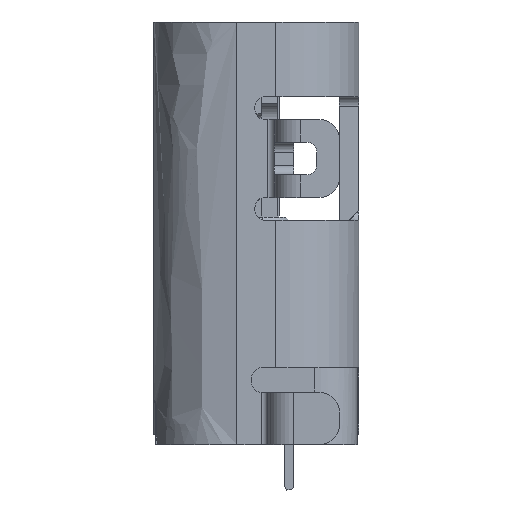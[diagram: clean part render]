
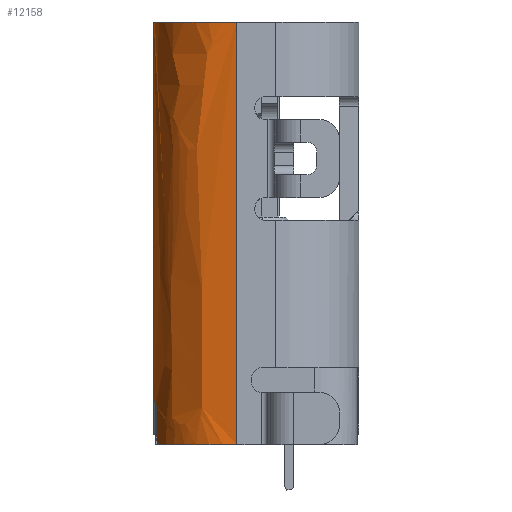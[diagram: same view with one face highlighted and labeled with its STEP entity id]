
A CAD part, left-side view. The second image highlights one B-rep face of the part: STEP entity #12158.
In plain terms, the highlighted free-form (B-spline) face has degree [1, 3] with [2, 4] control points.
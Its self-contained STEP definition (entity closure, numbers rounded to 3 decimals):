
#673 = CIRCLE ( 'NONE', #29351, 1.28 ) ;
#1560 = EDGE_CURVE ( 'NONE', #30214, #9611, #22685, .T. ) ;
#1673 = VERTEX_POINT ( 'NONE', #27566 ) ;
#1691 = CARTESIAN_POINT ( 'NONE',  ( -5.27, 0.221, 10.633 ) ) ;
#2208 = CARTESIAN_POINT ( 'NONE',  ( -4.441, 1.419, 4.134 ) ) ;
#2558 = CARTESIAN_POINT ( 'NONE',  ( -4.327, 1.456, 4.236 ) ) ;
#3427 = VERTEX_POINT ( 'NONE', #18721 ) ;
#3553 = VERTEX_POINT ( 'NONE', #19065 ) ;
#3572 = CARTESIAN_POINT ( 'NONE',  ( -4.32, 1.458, 4.668 ) ) ;
#5095 = VECTOR ( 'NONE', #16640, 1000. ) ;
#5695 = CARTESIAN_POINT ( 'NONE',  ( -3.99, 1.501, 10.633 ) ) ;
#6548 = EDGE_LOOP ( 'NONE', ( #31953, #19646, #23056, #30115, #26745, #11651, #20205, #29499 ) ) ;
#7259 = CARTESIAN_POINT ( 'NONE',  ( -5.27, 0.971, 4.133 ) ) ;
#7664 = CARTESIAN_POINT ( 'NONE',  ( -5.27, 0.221, 4.133 ) ) ;
#7786 = EDGE_CURVE ( 'NONE', #30683, #3553, #7965, .T. ) ;
#7952 = CARTESIAN_POINT ( 'NONE',  ( -4.32, 1.458, 4.275 ) ) ;
#7965 = B_SPLINE_CURVE_WITH_KNOTS ( 'NONE', 3,
 ( #15507, #7952, #12806, #2558, #26455, #10285, #35065, #15679, #23588, #32569, #2208, #29165, #29331 ),
 .UNSPECIFIED., .F., .F.,
 ( 4, 1, 1, 1, 1, 1, 1, 1, 1, 1, 4 ),
 ( 0., 0.1, 0.2, 0.3, 0.4, 0.5, 0.6, 0.7, 0.8, 0.9, 1. ),
 .UNSPECIFIED. ) ;
#8393 = LINE ( 'NONE', #5695, #5095 ) ;
#8584 = CIRCLE ( 'NONE', #28672, 1.28 ) ;
#8685 = EDGE_CURVE ( 'NONE', #3427, #1673, #8393, .T. ) ;
#9402 = CARTESIAN_POINT ( 'NONE',  ( -4.74, 1.501, 10.632 ) ) ;
#9611 = VERTEX_POINT ( 'NONE', #27065 ) ;
#9657 = VERTEX_POINT ( 'NONE', #7664 ) ;
#10041 = EDGE_CURVE ( 'NONE', #9611, #30683, #11029, .T. ) ;
#10285 = CARTESIAN_POINT ( 'NONE',  ( -4.348, 1.451, 4.194 ) ) ;
#10369 = DIRECTION ( 'NONE',  ( 0., 0., 1. ) ) ;
#10462 = EDGE_CURVE ( 'NONE', #3553, #9657, #8584, .T. ) ;
#11011 = DIRECTION ( 'NONE',  ( -1., 0., 0. ) ) ;
#11029 = LINE ( 'NONE', #14268, #17749 ) ;
#11626 = EDGE_CURVE ( 'NONE', #1673, #30214, #15758, .T. ) ;
#11651 = ORIENTED_EDGE ( 'NONE', *, *, #8685, .T. ) ;
#11937 = FACE_OUTER_BOUND ( 'NONE', #6548, .T. ) ;
#12158 = ADVANCED_FACE ( 'NONE', ( #11937 ), #25162, .F. ) ;
#12482 = LINE ( 'NONE', #29004, #15537 ) ;
#12806 = CARTESIAN_POINT ( 'NONE',  ( -4.321, 1.458, 4.259 ) ) ;
#13012 = DIRECTION ( 'NONE',  ( 0., 0., -1. ) ) ;
#14268 = CARTESIAN_POINT ( 'NONE',  ( -4.32, 1.458, 4.653 ) ) ;
#14532 = CARTESIAN_POINT ( 'NONE',  ( -4.32, 1.458, 4.653 ) ) ;
#15507 = CARTESIAN_POINT ( 'NONE',  ( -4.32, 1.458, 4.282 ) ) ;
#15537 = VECTOR ( 'NONE', #13012, 1000. ) ;
#15679 = CARTESIAN_POINT ( 'NONE',  ( -4.38, 1.441, 4.161 ) ) ;
#15758 = CIRCLE ( 'NONE', #16900, 1.28 ) ;
#16427 = CARTESIAN_POINT ( 'NONE',  ( -4.32, 1.458, 4.282 ) ) ;
#16640 = DIRECTION ( 'NONE',  ( 0., 0., -1. ) ) ;
#16900 = AXIS2_PLACEMENT_3D ( 'NONE', #23549, #29657, #17981 ) ;
#17230 = CARTESIAN_POINT ( 'NONE',  ( -4.17, 1.489, 4.802 ) ) ;
#17498 = CARTESIAN_POINT ( 'NONE',  ( -4.74, 1.501, 4.133 ) ) ;
#17749 = VECTOR ( 'NONE', #33298, 1000. ) ;
#17981 = DIRECTION ( 'NONE',  ( 0., 1., 0. ) ) ;
#18721 = CARTESIAN_POINT ( 'NONE',  ( -3.99, 1.501, 10.633 ) ) ;
#19065 = CARTESIAN_POINT ( 'NONE',  ( -4.463, 1.411, 4.133 ) ) ;
#19646 = ORIENTED_EDGE ( 'NONE', *, *, #7786, .T. ) ;
#20205 = ORIENTED_EDGE ( 'NONE', *, *, #11626, .T. ) ;
#20798 = CARTESIAN_POINT ( 'NONE',  ( -4.17, 1.489, 4.802 ) ) ;
#20909 = CARTESIAN_POINT ( 'NONE',  ( -3.99, 1.501, 4.133 ) ) ;
#21972 = DIRECTION ( 'NONE',  ( 0., 0., -1. ) ) ;
#22443 = CARTESIAN_POINT ( 'NONE',  ( -4.186, 1.486, 4.802 ) ) ;
#22685 = B_SPLINE_CURVE_WITH_KNOTS ( 'NONE', 3,
 ( #17230, #22443, #25306, #22808, #33761, #33225, #3572, #14532 ),
 .UNSPECIFIED., .F., .F.,
 ( 4, 1, 1, 1, 1, 4 ),
 ( 0., 0.2, 0.4, 0.6, 0.8, 1. ),
 .UNSPECIFIED. ) ;
#22808 = CARTESIAN_POINT ( 'NONE',  ( -4.261, 1.473, 4.776 ) ) ;
#23056 = ORIENTED_EDGE ( 'NONE', *, *, #10462, .T. ) ;
#23549 = CARTESIAN_POINT ( 'NONE',  ( -3.99, 0.221, 4.802 ) ) ;
#23588 = CARTESIAN_POINT ( 'NONE',  ( -4.399, 1.435, 4.148 ) ) ;
#25162 =( BOUNDED_SURFACE ( )  B_SPLINE_SURFACE ( 1, 3, ( 
 ( #20909, #17498, #7259, #31144 ),
 ( #26112, #9402, #28270, #1691 ) ),
 .UNSPECIFIED., .F., .F., .F. ) 
 B_SPLINE_SURFACE_WITH_KNOTS ( ( 2, 2 ),
 ( 4, 4 ),
 ( 0.019, 0.981 ),
 ( 0., 1. ),
 .UNSPECIFIED. ) 
 GEOMETRIC_REPRESENTATION_ITEM ( )  RATIONAL_B_SPLINE_SURFACE ( (
 ( 1., 0.805, 0.805, 1.),
 ( 1., 0.805, 0.805, 1.) ) ) 
 REPRESENTATION_ITEM ( '' )  SURFACE ( )  );
#25306 = CARTESIAN_POINT ( 'NONE',  ( -4.218, 1.481, 4.798 ) ) ;
#26112 = CARTESIAN_POINT ( 'NONE',  ( -3.99, 1.501, 10.633 ) ) ;
#26455 = CARTESIAN_POINT ( 'NONE',  ( -4.336, 1.454, 4.214 ) ) ;
#26745 = ORIENTED_EDGE ( 'NONE', *, *, #34936, .T. ) ;
#27065 = CARTESIAN_POINT ( 'NONE',  ( -4.32, 1.458, 4.653 ) ) ;
#27184 = CARTESIAN_POINT ( 'NONE',  ( -3.99, 0.221, 10.633 ) ) ;
#27566 = CARTESIAN_POINT ( 'NONE',  ( -3.99, 1.501, 4.802 ) ) ;
#28270 = CARTESIAN_POINT ( 'NONE',  ( -5.27, 0.971, 10.632 ) ) ;
#28370 = VERTEX_POINT ( 'NONE', #28811 ) ;
#28672 = AXIS2_PLACEMENT_3D ( 'NONE', #31762, #10369, #31947 ) ;
#28811 = CARTESIAN_POINT ( 'NONE',  ( -5.27, 0.221, 10.633 ) ) ;
#29004 = CARTESIAN_POINT ( 'NONE',  ( -5.27, 0.221, 10.633 ) ) ;
#29165 = CARTESIAN_POINT ( 'NONE',  ( -4.456, 1.414, 4.133 ) ) ;
#29331 = CARTESIAN_POINT ( 'NONE',  ( -4.463, 1.411, 4.133 ) ) ;
#29351 = AXIS2_PLACEMENT_3D ( 'NONE', #27184, #21972, #11011 ) ;
#29499 = ORIENTED_EDGE ( 'NONE', *, *, #1560, .T. ) ;
#29657 = DIRECTION ( 'NONE',  ( 0., 0., 1. ) ) ;
#30115 = ORIENTED_EDGE ( 'NONE', *, *, #33695, .F. ) ;
#30214 = VERTEX_POINT ( 'NONE', #20798 ) ;
#30683 = VERTEX_POINT ( 'NONE', #16427 ) ;
#31144 = CARTESIAN_POINT ( 'NONE',  ( -5.27, 0.221, 4.133 ) ) ;
#31762 = CARTESIAN_POINT ( 'NONE',  ( -3.99, 0.221, 4.133 ) ) ;
#31947 = DIRECTION ( 'NONE',  ( -0.369, 0.929, 0. ) ) ;
#31953 = ORIENTED_EDGE ( 'NONE', *, *, #10041, .T. ) ;
#32569 = CARTESIAN_POINT ( 'NONE',  ( -4.42, 1.427, 4.139 ) ) ;
#33225 = CARTESIAN_POINT ( 'NONE',  ( -4.316, 1.459, 4.699 ) ) ;
#33298 = DIRECTION ( 'NONE',  ( 0., 0., -1. ) ) ;
#33695 = EDGE_CURVE ( 'NONE', #28370, #9657, #12482, .T. ) ;
#33761 = CARTESIAN_POINT ( 'NONE',  ( -4.294, 1.465, 4.742 ) ) ;
#34936 = EDGE_CURVE ( 'NONE', #28370, #3427, #673, .T. ) ;
#35065 = CARTESIAN_POINT ( 'NONE',  ( -4.362, 1.446, 4.176 ) ) ;
